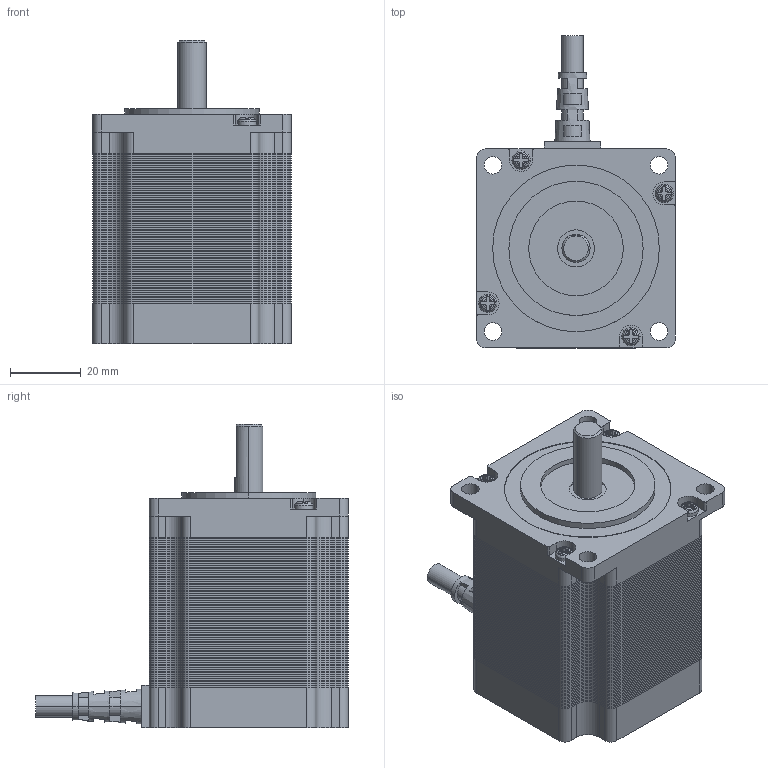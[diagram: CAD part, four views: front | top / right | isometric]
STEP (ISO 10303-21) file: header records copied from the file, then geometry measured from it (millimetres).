
FILE_DESCRIPTION (( 'STEP AP203' ), '1' );
FILE_NAME ('SM2303.STEP', '2020-05-23T06:06:23', ( 'Windows' ), ( 'Microsoft' ), 'SwSTEP 2.0', 'SolidWorks 2016', '' );
FILE_SCHEMA (( 'CONFIG_CONTROL_DESIGN' ));
Products named in the file (1): SM2303
Bounding box: 56.4 x 88.6 x 86 mm (x, y, z)
Volume: 189445.5 mm3; surface area: 513031.6 mm2
Topology: 88 solids, 88 shells, 2525 faces, 6975 edges, 4639 vertices
Faces by surface type: plane 1351, cylinder 1127, torus 24, cone 15, sphere 8
Entity records: 81149 total; most frequent: CARTESIAN_POINT 14408, DIRECTION 14378, ORIENTED_EDGE 13934, EDGE_CURVE 6967, AXIS2_PLACEMENT_3D 4935, VERTEX_POINT 4639, VECTOR 4508, LINE 4508
